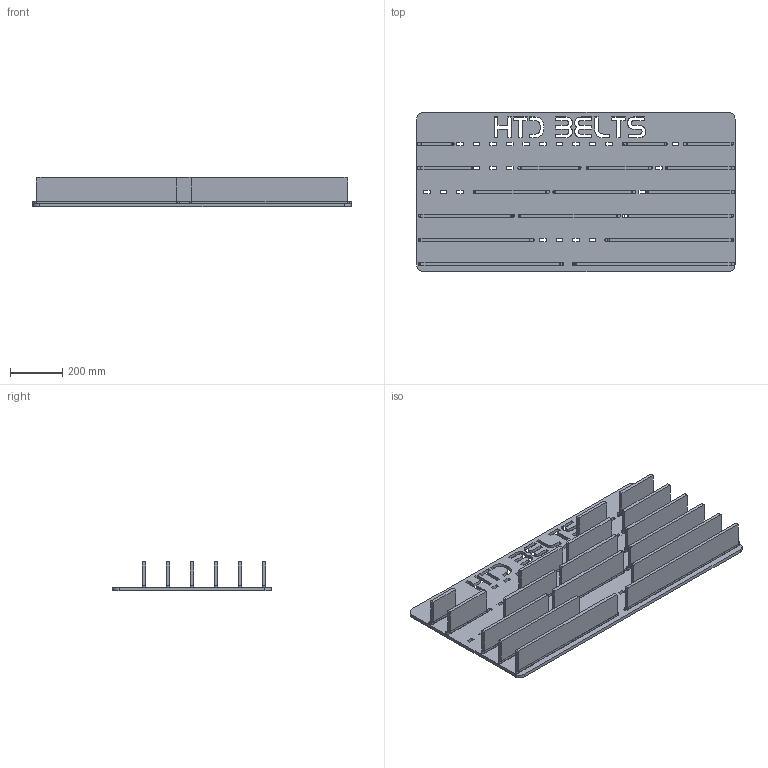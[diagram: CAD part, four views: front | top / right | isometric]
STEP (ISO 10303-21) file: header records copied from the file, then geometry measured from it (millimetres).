
FILE_DESCRIPTION((''),'2;1');
FILE_NAME('HTD_BELT_WALL_ASM','2023-12-31T04:10:22',('Rstockton429'),(''),'CREO PARAMETRIC BY PTC INC, 2023073','CREO PARAMETRIC BY PTC INC, 2023073','');
FILE_SCHEMA(('AUTOMOTIVE_DESIGN { 1 0 10303 214 1 1 1 1 }'));
Length unit declared in the file: inch
Products named in the file (36): HTD_BACKBOARD; 60T_PEG; 60T_BELT; 250T_PEG; 250T_BELT; 225T_PEG; 225T_BELT; 200T_PEG; 180T_PEG; 180T_BELT; 200T_BELT; 170T_PEG; 160T_PEG; 160T_BELT; 150T_PEG; 150T_BELT; 140T_PEG; 140T_BELT; 130T_PEG; 130T_BELT; 120T_PEG; 120T_BELT; 170T_BELT; 110T_PEG; 110T_BELT; 104T_PEG; 104T_BELT; 100T_PEG; 100T_BELT; 90T_PEG; 90T_BELT; 80T_PEG; 80T_BELT; 70T_PEG; 70T_BELT; HTD_BELT_WALL_ASM
Assembly tree (35 placements, depth 2):
  HTD_BELT_WALL_ASM
    HTD_BACKBOARD
    60T_PEG
    60T_BELT
    250T_PEG
    250T_BELT
    225T_PEG
    225T_BELT
    200T_PEG
    180T_PEG
    180T_BELT
    200T_BELT
    170T_PEG
    160T_PEG
    160T_BELT
    150T_PEG
    150T_BELT
    140T_PEG
    140T_BELT
    130T_PEG
    130T_BELT
    120T_PEG
    120T_BELT
    170T_BELT
    110T_PEG
    110T_BELT
    104T_PEG
    104T_BELT
    100T_PEG
    100T_BELT
    90T_PEG
    90T_BELT
    80T_PEG
    80T_BELT
    70T_PEG
    70T_BELT
Bounding box: 1219.45 x 609.6 x 114.3 mm (x, y, z)
Volume: 16119124.7 mm3; surface area: 3145625.1 mm2
Topology: 35 solids, 35 shells, 1274 faces, 3612 edges, 2408 vertices
Faces by surface type: plane 1090, cylinder 113, extrusion 71
Entity records: 64089 total; most frequent: CARTESIAN_POINT 8108, ORIENTED_EDGE 7224, DIRECTION 6315, PRESENTATION_STYLE_ASSIGNMENT 4992, STYLED_ITEM 4992, CURVE_STYLE 3683, EDGE_CURVE 3612, VECTOR 3315
